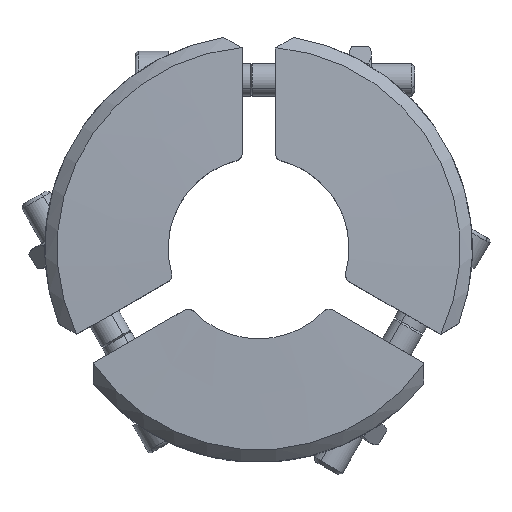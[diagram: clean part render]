
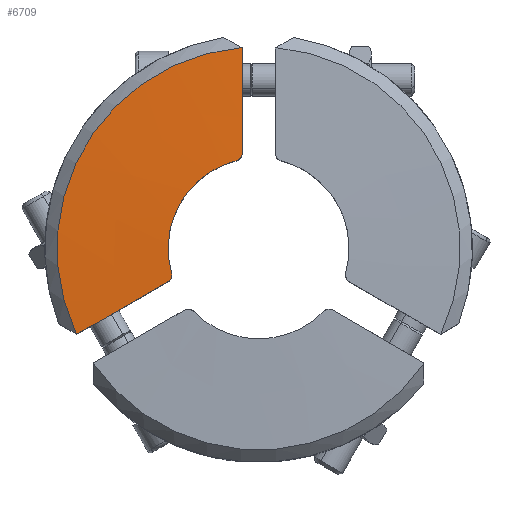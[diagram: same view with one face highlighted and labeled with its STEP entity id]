
A CAD part, top view. The second image highlights one B-rep face of the part: STEP entity #6709.
In plain terms, the highlighted conical face has half-angle 88 degrees and reference radius 18.75 mm.
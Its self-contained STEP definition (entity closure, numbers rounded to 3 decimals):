
#1534=CARTESIAN_POINT('',(-2.209,11.007,8.992));
#1535=VERTEX_POINT('',#1534);
#1544=CARTESIAN_POINT('',(-2.75,10.651,9.0));
#1545=VERTEX_POINT('',#1544);
#1546=CARTESIAN_POINT('',(-2.209,11.007,8.992));
#1547=CARTESIAN_POINT('',(-2.267,10.933,8.994));
#1548=CARTESIAN_POINT('',(-2.337,10.864,8.996));
#1549=CARTESIAN_POINT('',(-2.518,10.734,8.999));
#1550=CARTESIAN_POINT('',(-2.635,10.68,9.0));
#1551=CARTESIAN_POINT('',(-2.75,10.651,9.0));
#1552=B_SPLINE_CURVE_WITH_KNOTS('',3,(#1546,#1547,#1548,#1549,#1550,#1551),.UNSPECIFIED.,.F.,.U.,(4,2,4),(0.398,0.425,0.461),.UNSPECIFIED.);
#1553=EDGE_CURVE('',#1535,#1545,#1552,.T.);
#1580=CARTESIAN_POINT('',(-10.637,-3.59,8.992));
#1581=VERTEX_POINT('',#1580);
#1590=CARTESIAN_POINT('',(-11.062,-4.077,8.972));
#1591=VERTEX_POINT('',#1590);
#1592=CARTESIAN_POINT('',(-10.637,-3.59,8.992));
#1593=CARTESIAN_POINT('',(-10.647,-3.616,8.991));
#1594=CARTESIAN_POINT('',(-10.659,-3.642,8.991));
#1595=CARTESIAN_POINT('',(-10.726,-3.772,8.987));
#1596=CARTESIAN_POINT('',(-10.804,-3.875,8.983));
#1597=CARTESIAN_POINT('',(-10.949,-4.004,8.977));
#1598=CARTESIAN_POINT('',(-11.004,-4.044,8.975));
#1599=CARTESIAN_POINT('',(-11.062,-4.077,8.972));
#1600=B_SPLINE_CURVE_WITH_KNOTS('',3,(#1592,#1593,#1594,#1595,#1596,#1597,#1598,#1599),.UNSPECIFIED.,.F.,.U.,(4,2,2,4),(0.523,0.532,0.567,0.587),.UNSPECIFIED.);
#1601=EDGE_CURVE('',#1581,#1591,#1600,.T.);
#6479=CARTESIAN_POINT('',(-10.599,-2.944,9.0));
#6480=VERTEX_POINT('',#6479);
#6481=CARTESIAN_POINT('',(0.0,0.0,9.0));
#6482=DIRECTION('',(0.0,0.0,1.));
#6483=DIRECTION('',(-0.182,0.983,0.0));
#6484=AXIS2_PLACEMENT_3D('',#6481,#6482,#6483);
#6485=CIRCLE('',#6484,11.0);
#6486=EDGE_CURVE('',#1545,#6480,#6485,.T.);
#6610=CARTESIAN_POINT('',(0.0,0.,8.729));
#6611=DIRECTION('',(0.0,0.,-1.0));
#6612=DIRECTION('',(0.0,1.0,0.0));
#6613=AXIS2_PLACEMENT_3D('',#6610,#6611,#6612);
#6614=CONICAL_SURFACE('',#6613,18.75,88.);
#6615=CARTESIAN_POINT('',(-2.,11.619,8.972));
#6616=VERTEX_POINT('',#6615);
#6617=CARTESIAN_POINT('',(-2.,11.619,8.972));
#6618=CARTESIAN_POINT('',(-2.,11.552,8.975));
#6619=CARTESIAN_POINT('',(-2.007,11.484,8.977));
#6620=CARTESIAN_POINT('',(-2.046,11.294,8.983));
#6621=CARTESIAN_POINT('',(-2.096,11.175,8.987));
#6622=CARTESIAN_POINT('',(-2.176,11.052,8.991));
#6623=CARTESIAN_POINT('',(-2.192,11.029,8.991));
#6624=CARTESIAN_POINT('',(-2.209,11.007,8.992));
#6625=B_SPLINE_CURVE_WITH_KNOTS('',3,(#6617,#6618,#6619,#6620,#6621,#6622,#6623,#6624),.UNSPECIFIED.,.F.,.U.,(4,2,2,4),(0.335,0.354,0.389,0.398),.UNSPECIFIED.);
#6626=EDGE_CURVE('',#6616,#1535,#6625,.T.);
#6627=ORIENTED_EDGE('',*,*,#6626,.F.);
#6628=CARTESIAN_POINT('',(-2.,24.364,8.53));
#6629=VERTEX_POINT('',#6628);
#6630=CARTESIAN_POINT('',(-2.,24.364,8.53));
#6631=CARTESIAN_POINT('',(-2.,15.766,8.83));
#6632=CARTESIAN_POINT('',(-2.,11.619,8.972));
#6640=(BOUNDED_CURVE()B_SPLINE_CURVE(2,(#6630,#6631,#6632),.UNSPECIFIED.,.F.,.U.)B_SPLINE_CURVE_WITH_KNOTS((3,3),(0.013,0.233),.UNSPECIFIED.)CURVE()GEOMETRIC_REPRESENTATION_ITEM()RATIONAL_B_SPLINE_CURVE((1.059,1.566,2.03))REPRESENTATION_ITEM(''));
#6641=EDGE_CURVE('',#6629,#6616,#6640,.T.);
#6642=ORIENTED_EDGE('',*,*,#6641,.F.);
#6643=CARTESIAN_POINT('',(-2.083,24.412,8.529));
#6644=VERTEX_POINT('',#6643);
#6645=CARTESIAN_POINT('',(-2.,24.364,8.53));
#6646=CARTESIAN_POINT('',(-2.042,24.388,8.529));
#6647=CARTESIAN_POINT('',(-2.083,24.412,8.529));
#6655=(BOUNDED_CURVE()B_SPLINE_CURVE(2,(#6645,#6646,#6647),.UNSPECIFIED.,.F.,.U.)B_SPLINE_CURVE_WITH_KNOTS((3,3),(2.904,2.912),.UNSPECIFIED.)CURVE()GEOMETRIC_REPRESENTATION_ITEM()RATIONAL_B_SPLINE_CURVE((1.013,1.013,1.012))REPRESENTATION_ITEM(''));
#6656=EDGE_CURVE('',#6629,#6644,#6655,.T.);
#6657=ORIENTED_EDGE('',*,*,#6656,.T.);
#6658=CARTESIAN_POINT('',(-22.183,-10.402,8.529));
#6659=VERTEX_POINT('',#6658);
#6660=CARTESIAN_POINT('',(0.,0.0,8.529));
#6661=DIRECTION('',(0.,0.,-1.0));
#6662=DIRECTION('',(-0.077,0.997,0.));
#6663=AXIS2_PLACEMENT_3D('',#6660,#6661,#6662);
#6664=CIRCLE('',#6663,24.501);
#6665=EDGE_CURVE('',#6659,#6644,#6664,.T.);
#6666=ORIENTED_EDGE('',*,*,#6665,.F.);
#6667=CARTESIAN_POINT('',(-22.1,-10.45,8.53));
#6668=VERTEX_POINT('',#6667);
#6669=CARTESIAN_POINT('',(-22.183,-10.402,8.529));
#6670=CARTESIAN_POINT('',(-22.142,-10.426,8.529));
#6671=CARTESIAN_POINT('',(-22.1,-10.45,8.53));
#6679=(BOUNDED_CURVE()B_SPLINE_CURVE(2,(#6669,#6670,#6671),.UNSPECIFIED.,.F.,.U.)B_SPLINE_CURVE_WITH_KNOTS((3,3),(0.281,0.289),.UNSPECIFIED.)CURVE()GEOMETRIC_REPRESENTATION_ITEM()RATIONAL_B_SPLINE_CURVE((1.048,1.049,1.049))REPRESENTATION_ITEM(''));
#6680=EDGE_CURVE('',#6659,#6668,#6679,.T.);
#6681=ORIENTED_EDGE('',*,*,#6680,.T.);
#6682=CARTESIAN_POINT('',(-11.062,-4.077,8.972));
#6683=CARTESIAN_POINT('',(-14.654,-6.151,8.83));
#6684=CARTESIAN_POINT('',(-22.1,-10.45,8.53));
#6692=(BOUNDED_CURVE()B_SPLINE_CURVE(2,(#6682,#6683,#6684),.UNSPECIFIED.,.F.,.U.)B_SPLINE_CURVE_WITH_KNOTS((3,3),(4.954,5.175),.UNSPECIFIED.)CURVE()GEOMETRIC_REPRESENTATION_ITEM()RATIONAL_B_SPLINE_CURVE((2.03,1.566,1.059))REPRESENTATION_ITEM(''));
#6693=EDGE_CURVE('',#1591,#6668,#6692,.T.);
#6694=ORIENTED_EDGE('',*,*,#6693,.F.);
#6695=ORIENTED_EDGE('',*,*,#1601,.F.);
#6696=CARTESIAN_POINT('',(-10.599,-2.944,9.0));
#6697=CARTESIAN_POINT('',(-10.567,-3.058,9.0));
#6698=CARTESIAN_POINT('',(-10.555,-3.186,8.999));
#6699=CARTESIAN_POINT('',(-10.577,-3.408,8.996));
#6700=CARTESIAN_POINT('',(-10.601,-3.503,8.994));
#6701=CARTESIAN_POINT('',(-10.637,-3.59,8.992));
#6702=B_SPLINE_CURVE_WITH_KNOTS('',3,(#6696,#6697,#6698,#6699,#6700,#6701),.UNSPECIFIED.,.F.,.U.,(4,2,4),(0.461,0.496,0.523),.UNSPECIFIED.);
#6703=EDGE_CURVE('',#6480,#1581,#6702,.T.);
#6704=ORIENTED_EDGE('',*,*,#6703,.F.);
#6705=ORIENTED_EDGE('',*,*,#6486,.F.);
#6706=ORIENTED_EDGE('',*,*,#1553,.F.);
#6707=EDGE_LOOP('',(#6627,#6642,#6657,#6666,#6681,#6694,#6695,#6704,#6705,#6706));
#6708=FACE_OUTER_BOUND('',#6707,.T.);
#6709=ADVANCED_FACE('',(#6708),#6614,.T.);
